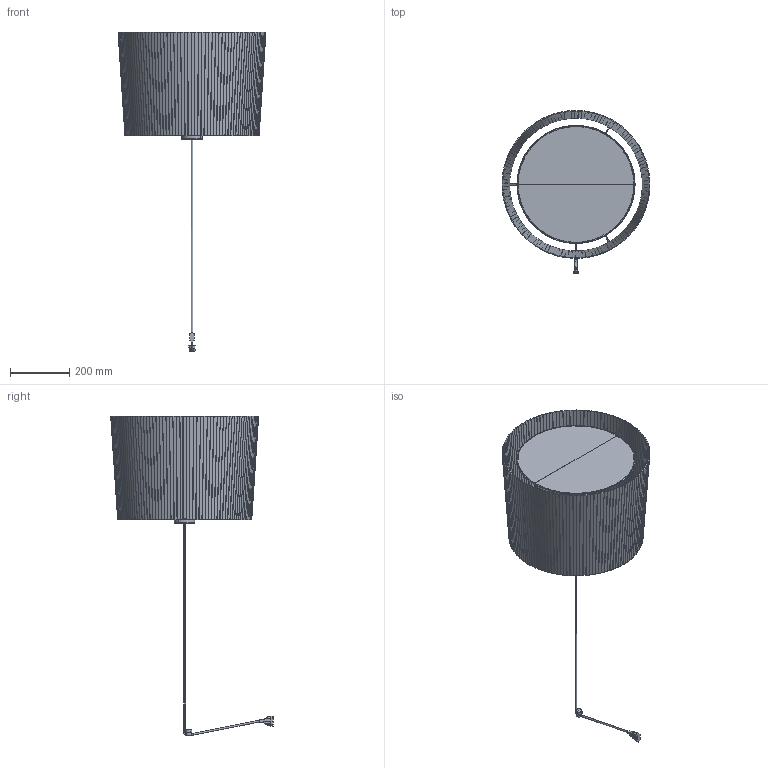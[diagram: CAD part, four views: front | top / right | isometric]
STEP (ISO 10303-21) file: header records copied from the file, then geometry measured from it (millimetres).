
FILE_DESCRIPTION(/* description */ (''),/* implementation_level */ '2;1');
FILE_NAME(/* name */ 'C:\Users\Franco Sartori E\Documents\FARO\DUPLICADO\Modelos\01_Digitalizados\2021\0_MAMBO_SAMBA_CONGA\03_Publicación\68604-44 wall.stp',/* time_stamp */ '2021-02-22T13:01:08+01:00',/* author */ ('Franco Sartori E'),/* organization */ (''),/* preprocessor_version */ 'ST-DEVELOPER v18.1',/* originating_system */ 'AutoCAD Mechanical',/* authorisation */ '');
FILE_SCHEMA (('AUTOMOTIVE_DESIGN { 1 0 10303 214 3 1 1 }'));
Length unit declared in the file: millimetre
Products named in the file (5): Product; 68604_Ceiling - LH-462664-_3D_; LAMP HOLDER - LH-462566-_3D_; 68604_Wall - LH-462665-_3D_; SAMBA - SH-462667-_3D_
Assembly tree (4 placements, depth 2):
  Product
    68604_Ceiling - LH-462664-_3D_
    LAMP HOLDER - LH-462566-_3D_
    68604_Wall - LH-462665-_3D_
    SAMBA - SH-462667-_3D_
Bounding box: 500.91 x 550.43 x 1082.69 mm (x, y, z)
Volume: 1730287 mm3; surface area: 1710750.5 mm2
Topology: 145 solids, 150 shells, 1254 faces, 2828 edges, 1854 vertices
Faces by surface type: plane 1135, cylinder 87, torus 24, cone 8
Entity records: 38708 total; most frequent: CARTESIAN_POINT 10655, ORIENTED_EDGE 5627, DIRECTION 5384, EDGE_CURVE 2826, LINE 2572, VECTOR 2572, VERTEX_POINT 1854, AXIS2_PLACEMENT_3D 1406
